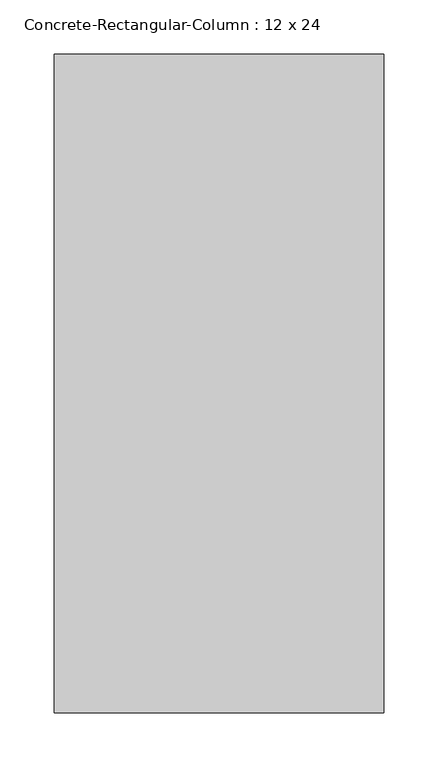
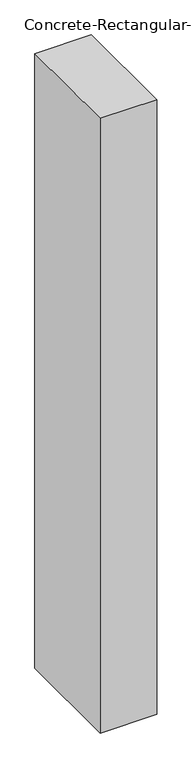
"""IFC4 building model written with IfcOpenShell, lengths in millimetres: column geometry, Concrete-Rectangular-Column : 12 x 24."""

from ifc_helpers import new_model, si_unit, origin, origin_with_axes, place, context, project, spatial, polyline, outline, extrude, source, transform, mapped, element, save


def concrete_rectangular_column_12_x_24_9e7f9cbb(model_context):
    return source(origin(), model_context, "Body", "SweptSolid", [
        extrude(outline(polyline([(152.4, 304.8), (152.4, -304.8), (-152.4, -304.8), (-152.4, 304.8), (152.4, 304.8)])), origin_with_axes(), (0.0, 0.0, 1.0), 3505.2),
    ])


if __name__ == "__main__":
    model = new_model("IFC4")
    model_context = context("Model", 3, world=origin())
    ifc_project = project(units=[si_unit("LENGTHUNIT", "METRE", prefix="MILLI")], contexts=[model_context])
    site = spatial("IfcSite", under=ifc_project)
    building = spatial("IfcBuilding", under=site)
    placement = place(None, origin())
    concrete_rectangular_column_12_x_24_shape = concrete_rectangular_column_12_x_24_9e7f9cbb(model_context)
    element("IfcColumn", 1, ObjectType="Concrete-Rectangular-Column : 12 x 24", at=placement, inside=building, context=model_context, shape_type="MappedRepresentation", body=[
        mapped(concrete_rectangular_column_12_x_24_shape, transform((0.0, 0.0, 0.0), x_axis=(1.0, 0.0, 0.0), y_axis=(0.0, 1.0, 0.0), z_axis=(0.0, 0.0, 1.0))),
    ])
    save(model, "model.ifc")
